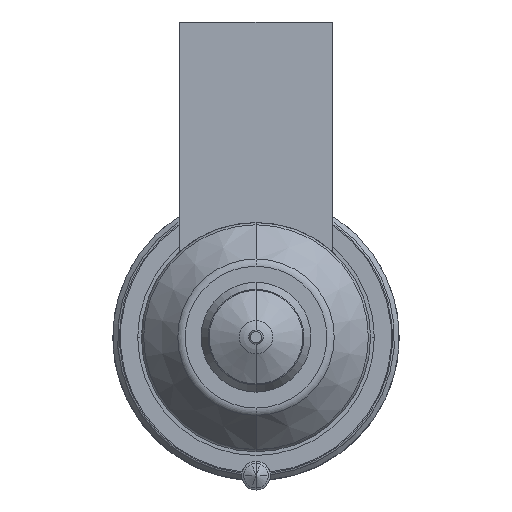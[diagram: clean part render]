
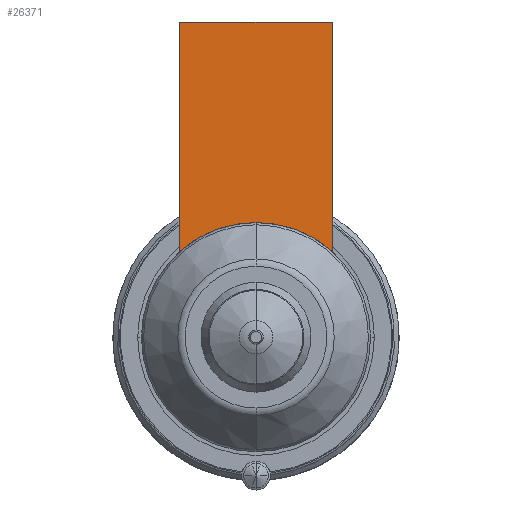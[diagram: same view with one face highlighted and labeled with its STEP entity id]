
A CAD part, front view. The second image highlights one B-rep face of the part: STEP entity #26371.
In plain terms, the highlighted planar face has unit normal (0, -1, 0).
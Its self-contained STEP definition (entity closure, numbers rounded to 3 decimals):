
#25451=DIRECTION('',(0.,0.,-1.));
#25452=VECTOR('',#25451,24.056);
#25453=CARTESIAN_POINT('',(-8.,-56.,33.));
#25454=LINE('',#25453,#25452);
#25491=DIRECTION('',(1.,0.,0.));
#25492=VECTOR('',#25491,16.);
#25493=CARTESIAN_POINT('',(-8.,-56.,33.));
#25494=LINE('',#25493,#25492);
#25498=CARTESIAN_POINT('',(0.,-56.,0.));
#25499=DIRECTION('',(0.,-1.,0.));
#25500=DIRECTION('',(0.667,0.,0.745));
#25501=AXIS2_PLACEMENT_3D('',#25498,#25499,#25500);
#25506=CARTESIAN_POINT('',(0.,-56.,0.));
#25507=DIRECTION('',(0.,-1.,0.));
#25508=DIRECTION('',(0.,0.,1.));
#25509=AXIS2_PLACEMENT_3D('',#25506,#25507,#25508);
#25542=DIRECTION('',(0.,0.,-1.));
#25543=VECTOR('',#25542,24.056);
#25544=CARTESIAN_POINT('',(8.,-56.,33.));
#25545=LINE('',#25544,#25543);
#26207=CARTESIAN_POINT('',(-8.,-56.,33.));
#26208=VERTEX_POINT('',#26207);
#26213=CARTESIAN_POINT('',(8.,-56.,33.));
#26214=VERTEX_POINT('',#26213);
#26217=CARTESIAN_POINT('',(-8.,-56.,8.944));
#26218=VERTEX_POINT('',#26217);
#26221=CARTESIAN_POINT('',(8.,-56.,8.944));
#26222=VERTEX_POINT('',#26221);
#26290=CARTESIAN_POINT('',(0.,-56.,12.));
#26291=VERTEX_POINT('',#26290);
#26356=CARTESIAN_POINT('',(-8.,-56.,33.));
#26357=DIRECTION('',(0.,-1.,0.));
#26358=DIRECTION('',(0.,0.,-1.));
#26359=AXIS2_PLACEMENT_3D('',#26356,#26357,#26358);
#26360=PLANE('',#26359);
#26361=ORIENTED_EDGE('',*,*,#26304,.F.);
#26363=ORIENTED_EDGE('',*,*,#26362,.T.);
#26365=ORIENTED_EDGE('',*,*,#26364,.T.);
#26367=ORIENTED_EDGE('',*,*,#26366,.T.);
#26368=ORIENTED_EDGE('',*,*,#26336,.T.);
#26369=EDGE_LOOP('',(#26361,#26363,#26365,#26367,#26368));
#26370=FACE_OUTER_BOUND('',#26369,.F.);
#26371=ADVANCED_FACE('',(#26370),#26360,.T.);
#25502=CIRCLE('',#25501,12.);
#25510=CIRCLE('',#25509,12.);
#26304=EDGE_CURVE('',#26208,#26218,#25454,.T.);
#26336=EDGE_CURVE('',#26291,#26218,#25510,.T.);
#26362=EDGE_CURVE('',#26208,#26214,#25494,.T.);
#26364=EDGE_CURVE('',#26214,#26222,#25545,.T.);
#26366=EDGE_CURVE('',#26222,#26291,#25502,.T.);
